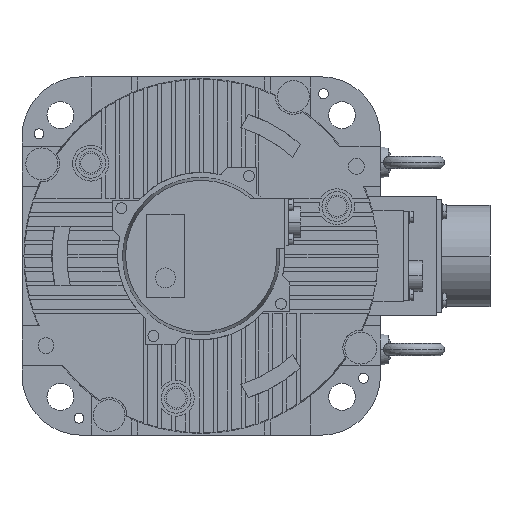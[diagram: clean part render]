
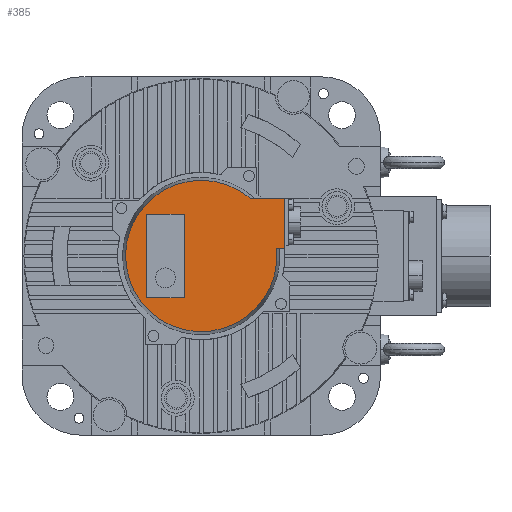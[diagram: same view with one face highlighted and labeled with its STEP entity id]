
A CAD part, left-side view. The second image highlights one B-rep face of the part: STEP entity #385.
In plain terms, the highlighted planar face has unit normal (-1, 0, 0).
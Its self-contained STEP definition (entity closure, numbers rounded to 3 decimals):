
#385=ADVANCED_FACE('',(#3755,#3756),#3754,.F.);
#3754=PLANE('',#11456);
#3755=FACE_OUTER_BOUND('',#11457,.T.);
#3756=FACE_BOUND('',#11458,.T.);
#11453=CARTESIAN_POINT('',(-309.,-52.891,71.254));
#11454=DIRECTION('',(1.,0.,0.));
#11455=DIRECTION('',(0.,0.,-1.));
#11456=AXIS2_PLACEMENT_3D('',#11453,#11454,#11455);
#11457=EDGE_LOOP('',(#16403,#16404,#16405,#16406));
#11458=EDGE_LOOP('',(#16407,#16408,#16409,#16410));
#16403=ORIENTED_EDGE('',*,*,#19597,.F.);
#16404=ORIENTED_EDGE('',*,*,#20763,.F.);
#16405=ORIENTED_EDGE('',*,*,#20764,.F.);
#16406=ORIENTED_EDGE('',*,*,#20759,.F.);
#16407=ORIENTED_EDGE('',*,*,#20765,.F.);
#16408=ORIENTED_EDGE('',*,*,#20766,.F.);
#16409=ORIENTED_EDGE('',*,*,#20767,.F.);
#16410=ORIENTED_EDGE('',*,*,#20768,.F.);
#19597=EDGE_CURVE('',#22113,#22114,#22115,.T.);
#20759=EDGE_CURVE('',#22114,#30021,#30022,.T.);
#20763=EDGE_CURVE('',#30041,#22113,#30048,.T.);
#20764=EDGE_CURVE('',#30021,#30041,#30054,.T.);
#20765=EDGE_CURVE('',#30060,#30061,#30062,.T.);
#20766=EDGE_CURVE('',#30068,#30060,#30069,.T.);
#20767=EDGE_CURVE('',#30075,#30068,#30076,.T.);
#20768=EDGE_CURVE('',#30061,#30075,#30082,.T.);
#22113=VERTEX_POINT('',#37790);
#22114=VERTEX_POINT('',#37791);
#22115=CIRCLE('',#37795,38.);
#30021=VERTEX_POINT('',#42912);
#30022=LINE('',#42913,#42914);
#30041=VERTEX_POINT('',#42923);
#30048=LINE('',#42927,#42928);
#30054=LINE('',#42930,#42931);
#30060=VERTEX_POINT('',#42933);
#30061=VERTEX_POINT('',#42934);
#30062=LINE('',#42935,#42936);
#30068=VERTEX_POINT('',#42938);
#30069=LINE('',#42939,#42940);
#30075=VERTEX_POINT('',#42942);
#30076=LINE('',#42943,#42944);
#30082=LINE('',#42946,#42947);
#37790=CARTESIAN_POINT('',(-309.,-37.789,4.));
#37791=CARTESIAN_POINT('',(-309.,-24.556,29.));
#37792=CARTESIAN_POINT('',(-309.,0.,0.));
#37793=DIRECTION('',(1.,0.,0.));
#37794=DIRECTION('',(0.,-0.994,0.105));
#37795=AXIS2_PLACEMENT_3D('',#37792,#37793,#37794);
#42912=CARTESIAN_POINT('',(-309.,-42.,29.));
#42913=CARTESIAN_POINT('',(-309.,-24.556,29.));
#42914=VECTOR('',#42915,17.444);
#42915=DIRECTION('',(0.,-1.,0.));
#42923=CARTESIAN_POINT('',(-309.,-42.,4.));
#42927=CARTESIAN_POINT('',(-309.,-42.,4.));
#42928=VECTOR('',#42929,4.211);
#42929=DIRECTION('',(0.,1.,0.));
#42930=CARTESIAN_POINT('',(-309.,-42.,29.));
#42931=VECTOR('',#42932,25.);
#42932=DIRECTION('',(0.,0.,-1.));
#42933=CARTESIAN_POINT('',(-309.,8.5,-21.));
#42934=CARTESIAN_POINT('',(-309.,8.5,21.));
#42935=CARTESIAN_POINT('',(-309.,8.5,-21.));
#42936=VECTOR('',#42937,42.);
#42937=DIRECTION('',(0.,0.,1.));
#42938=CARTESIAN_POINT('',(-309.,27.5,-21.));
#42939=CARTESIAN_POINT('',(-309.,27.5,-21.));
#42940=VECTOR('',#42941,19.);
#42941=DIRECTION('',(0.,-1.,0.));
#42942=CARTESIAN_POINT('',(-309.,27.5,21.));
#42943=CARTESIAN_POINT('',(-309.,27.5,21.));
#42944=VECTOR('',#42945,42.);
#42945=DIRECTION('',(0.,0.,-1.));
#42946=CARTESIAN_POINT('',(-309.,8.5,21.));
#42947=VECTOR('',#42948,19.);
#42948=DIRECTION('',(0.,1.,0.));
